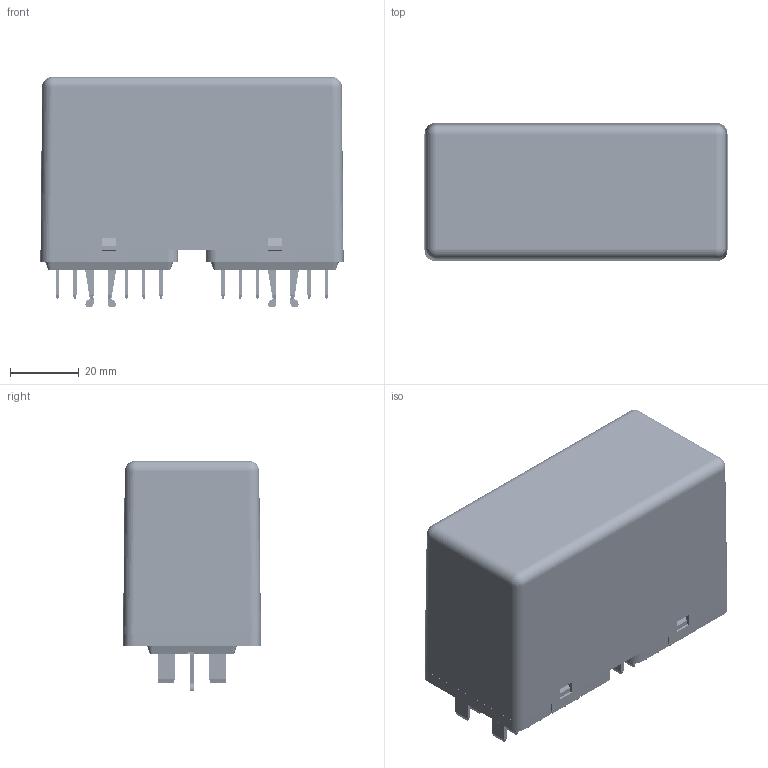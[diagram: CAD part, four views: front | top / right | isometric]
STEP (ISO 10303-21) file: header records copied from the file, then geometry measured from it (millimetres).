
FILE_DESCRIPTION((''),'2;1');
FILE_NAME('I:\TI\Bibliotheek\Inventor\Relais\KDN\KDN-U200.stp','2010-09-22T11:51:25',('oey'),(''),'Autodesk Inventor 2011','Autodesk Inventor 2011','');
FILE_SCHEMA(('AUTOMOTIVE_DESIGN { 1 0 10303 214 1 1 1 1 }'));
Length unit declared in the file: millimetre
Products named in the file (57): KDN-U200; 395058300 Montagepl. + frame KDN; 375092401 Montageplaat KDN_D8-relais; 370957100 Cont.strip links  D; 370957200 Cont.strip rechts D; 391131200 Cont.strip snoer D; 392253001 Frame geslepen D; 392253000 Frame vernikkeld D; 561552000 Frame DW_DG; 396804000 Snapveer D; 373111500 Buisn. 2,5x 6,0 ms vern; 373111600 Buisn. 2,5x 9,0 ms vern; 398572000 Veerhouder D; 374305000 Kl.nagel Spec. D   alum; 374346000 Klinkbus M4 D; 391131300 Cont.strip spoel D; Spoel D-U; 396840000 Spoelframe nylon D; 376980201 Spoelframe nylon D; 390430300 Aansl.strip spoel D; 396840000_1 Spoeldraad; 394445360 Kern DC zink blankgepass 3-12um; 396812000 Opvulstrip tbv spoel D; 390370301 Anker+cont.blok KDN antikl; 391114000 Cont.blok 4-polig D; 391114000 Kunststof contactblok; 370957300  Contactveer met nagel D; 370957300_1 Contactvinger; 370957300_2 Contactnagel; 390370400 Anker D tbv 390370301 Anker KDN-relais; 375450000 Kl.nagel 2,5x 6 mess. D; 561673000 Antikleefplaat D-relais; 395081000 Blusmagneet D; 375030100 Magneet ferroxdure D; 150010007 tbv 395081000; 390770101 Bluskamer tbv D-relais; 379227000 Trekveer D   420 gram; 390398200 Ankerbeugel KDN  rechts; 394543000 Koppelframe KDN D8; 390398100 Ankerbeugel KDN links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
Assembly tree (100 placements, depth 5):
  KDN-U200
    395058300 Montagepl. + frame KDN  x2
      375092401 Montageplaat KDN_D8-relais
      370957100 Cont.strip links  D
      370957200 Cont.strip rechts D
      391131200 Cont.strip snoer D
      392253001 Frame geslepen D
        392253000 Frame vernikkeld D
          561552000 Frame DW_DG
      396804000 Snapveer D
      373111500 Buisn. 2,5x 6,0 ms vern
      373111600 Buisn. 2,5x 9,0 ms vern
      398572000 Veerhouder D
      374305000 Kl.nagel Spec. D   alum
      374346000 Klinkbus M4 D
      391131300 Cont.strip spoel D
    Spoel D-U  x2
      396840000 Spoelframe nylon D
        376980201 Spoelframe nylon D
        390430300 Aansl.strip spoel D  x2
      396840000_1 Spoeldraad
    394445360 Kern DC zink blankgepass 3-12um  x2
    396812000 Opvulstrip tbv spoel D  x2
    390370301 Anker+cont.blok KDN antikl  x2
      391114000 Cont.blok 4-polig D
        391114000 Kunststof contactblok
        370957300  Contactveer met nagel D  x4
          370957300_1 Contactvinger
          370957300_2 Contactnagel
      390370400 Anker D tbv 390370301 Anker KDN-relais
      398572000 Veerhouder D
      374305000 Kl.nagel Spec. D   alum
      375450000 Kl.nagel 2,5x 6 mess. D
      561673000 Antikleefplaat D-relais
    395081000 Blusmagneet D  x2
      375030100 Magneet ferroxdure D
      150010007 tbv 395081000
    390770101 Bluskamer tbv D-relais  x8
    379227000 Trekveer D   420 gram  x4
    390398200 Ankerbeugel KDN  rechts
    394543000 Koppelframe KDN D8
    390398100 Ankerbeugel KDN links
    398592000 Verklikker KDN
      379269000 Verklikker geboord
      376139000 Asje 1,0x8mm rvs KDN
      376139001 Asje 1,0x16mm rvs KDN
      561145394 Sticker KDN verklikker
    392257001 Frontplaat KDN_D8 kunststof
    560020012 Lagerbus standaanwijzer KDN
    378676001 Schroef M3,5x 6 vk st  x2
    377340800 Schroef M4 x 8vk  x2
    562025050 Schroef M2,5 x 5 ck rvs  x2
    562220052 Schroef M2 x 5 ck kr st.  x4
    374324100 Kap KDN_D8
    378670000 Zwarte draad tbv D  x2
    378670000 Zwarte draad tbv D-Mir  x2
    378670100 Grijze draad tbv D  x2
    378670100 Grijze draad tbv D-Mir  x2
    560202020 Diode BYW-56 1000V-2A-Basis  x2
Bounding box: 87.9 x 40.07 x 66.7 mm (x, y, z)
Volume: 86039.7 mm3; surface area: 109751.3 mm2
Topology: 132 solids, 132 shells, 4765 faces, 12651 edges, 8146 vertices
Faces by surface type: plane 2843, cylinder 1437, sphere 214, cone 154, torus 65, bspline 52
Full cylindrical faces by diameter (mm): 0.5 x8, 0.8 x2, 0.82 x4, 1 x2, 1.1 x2, 1.5 x2, 1.7 x4, 1.729 x4, 1.8 x4, 2 x16, 2.013 x2, 2.08 x8, 2.1 x48, 2.2 x4, 2.224 x2, 2.3 x12, 2.4 x4, 2.5 x4, 2.6 x2, 2.69 x4, 2.7 x20, 2.85 x2, 3 x3, 3.132 x2, 3.242 x2, 3.3 x4, 3.5 x4, 4 x25, 4.5 x4, 4.9 x2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
Entity records: 65233 total; most frequent: CARTESIAN_POINT 14146, DIRECTION 10554, ORIENTED_EDGE 10048, EDGE_CURVE 5024, AXIS2_PLACEMENT_3D 3620, VERTEX_POINT 3316, VECTOR 3314, LINE 3314
